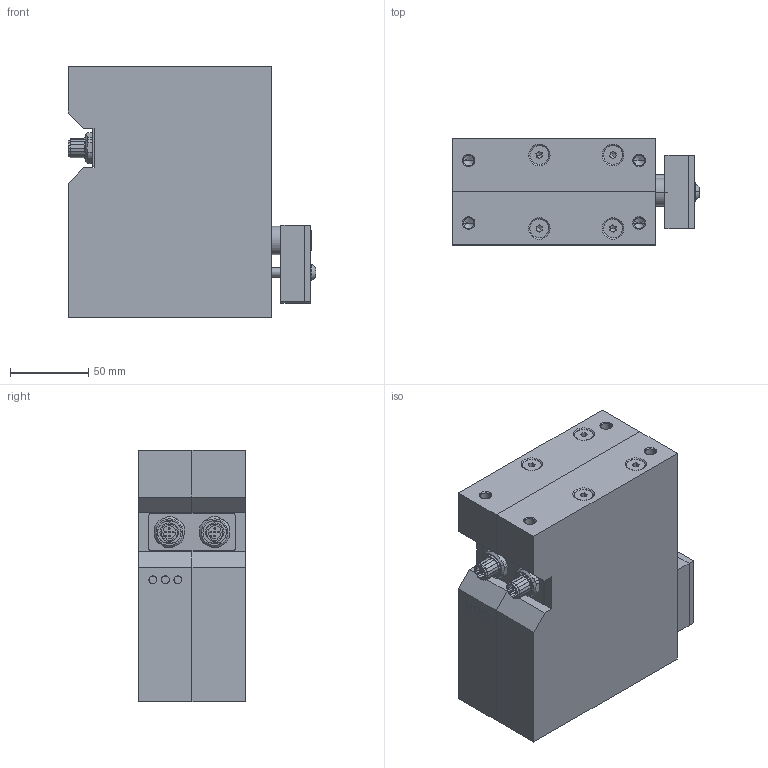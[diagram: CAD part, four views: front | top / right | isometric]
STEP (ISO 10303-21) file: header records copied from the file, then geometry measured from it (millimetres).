
FILE_DESCRIPTION (( 'STEP AP203' ), '1' );
FILE_NAME ('ELD-430-11-5B_Anschlag unten ausgefahren.STEP', '2019-02-12T14:10:09', ( '' ), ( '' ), 'SwSTEP 2.0', 'SolidWorks 2017', '' );
FILE_SCHEMA (( 'CONFIG_CONTROL_DESIGN' ));
Length unit declared in the file: millimetre
Products named in the file (1): ELD-430-11-5B_Anschlag unten ausgefahren
Bounding box: 158.32 x 68 x 161 mm (x, y, z)
Volume: 1266872.1 mm3; surface area: 197089.8 mm2
Topology: 44 solids, 44 shells, 765 faces, 1838 edges, 1147 vertices
Faces by surface type: plane 480, cylinder 169, cone 110, torus 4, sphere 2
Entity records: 21777 total; most frequent: CARTESIAN_POINT 3813, DIRECTION 3764, ORIENTED_EDGE 3584, EDGE_CURVE 1792, LINE 1328, VECTOR 1328, AXIS2_PLACEMENT_3D 1218, VERTEX_POINT 1147
